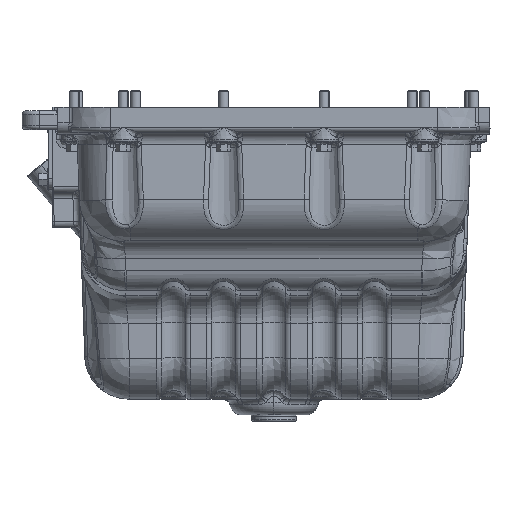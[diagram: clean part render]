
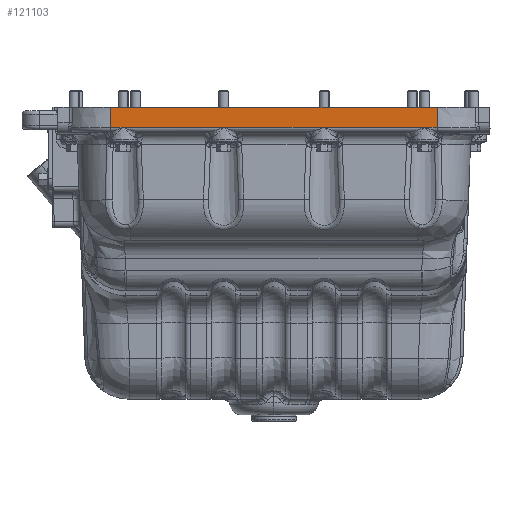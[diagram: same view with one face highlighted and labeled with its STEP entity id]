
A CAD part, left-side view. The second image highlights one B-rep face of the part: STEP entity #121103.
In plain terms, the highlighted planar face has unit normal (-0.999, 0, -0.035).
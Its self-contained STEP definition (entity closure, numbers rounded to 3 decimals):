
#121072=AXIS2_PLACEMENT_3D('Plane Axis2P3D',#121069,#121070,#121071) ;
#61382=CARTESIAN_POINT('Vertex',(-6.236,130.,-16.14)) ;
#61671=CARTESIAN_POINT('Vertex',(-6.236,-130.,-16.14)) ;
#67075=CARTESIAN_POINT('Line Origine',(-6.236,0.,-16.14)) ;
#67079=CARTESIAN_POINT('Vertex',(-6.236,-120.,-16.14)) ;
#67173=CARTESIAN_POINT('Line Origine',(-6.236,0.,-16.14)) ;
#67177=CARTESIAN_POINT('Vertex',(-6.236,-40.,-16.14)) ;
#67477=CARTESIAN_POINT('Line Origine',(-6.236,0.,-16.14)) ;
#67481=CARTESIAN_POINT('Vertex',(-6.236,40.,-16.14)) ;
#67809=CARTESIAN_POINT('Line Origine',(-6.236,0.,-16.14)) ;
#67813=CARTESIAN_POINT('Vertex',(-6.236,120.,-16.14)) ;
#68113=CARTESIAN_POINT('Line Origine',(-6.236,0.,-16.14)) ;
#121069=CARTESIAN_POINT('Axis2P3D Location',(-6.8,0.,0.)) ;
#121074=CARTESIAN_POINT('Line Origine',(-6.8,65.,0.)) ;
#121078=CARTESIAN_POINT('Vertex',(-6.8,-130.,0.)) ;
#121080=CARTESIAN_POINT('Vertex',(-6.8,130.,0.)) ;
#121083=CARTESIAN_POINT('Line Origine',(-6.461,130.,-9.7)) ;
#121088=CARTESIAN_POINT('Line Origine',(-6.461,-130.,-9.7)) ;
#67076=DIRECTION('Vector Direction',(0.,1.,0.)) ;
#67174=DIRECTION('Vector Direction',(0.,1.,0.)) ;
#67478=DIRECTION('Vector Direction',(0.,1.,0.)) ;
#67810=DIRECTION('Vector Direction',(0.,1.,0.)) ;
#68114=DIRECTION('Vector Direction',(0.,1.,0.)) ;
#121070=DIRECTION('Axis2P3D Direction',(0.999,-0.,0.035)) ;
#121071=DIRECTION('Axis2P3D XDirection',(0.,1.,0.)) ;
#121075=DIRECTION('Vector Direction',(0.,1.,0.)) ;
#121084=DIRECTION('Vector Direction',(-0.035,0.,0.999)) ;
#121089=DIRECTION('Vector Direction',(-0.035,0.,0.999)) ;
#67077=VECTOR('Line Direction',#67076,1.) ;
#67175=VECTOR('Line Direction',#67174,1.) ;
#67479=VECTOR('Line Direction',#67478,1.) ;
#67811=VECTOR('Line Direction',#67810,1.) ;
#68115=VECTOR('Line Direction',#68114,1.) ;
#121076=VECTOR('Line Direction',#121075,1.) ;
#121085=VECTOR('Line Direction',#121084,1.) ;
#121090=VECTOR('Line Direction',#121089,1.) ;
#121094=ORIENTED_EDGE('',*,*,#121082,.T.) ;
#121095=ORIENTED_EDGE('',*,*,#121087,.T.) ;
#121096=ORIENTED_EDGE('',*,*,#68117,.F.) ;
#121097=ORIENTED_EDGE('',*,*,#67815,.F.) ;
#121098=ORIENTED_EDGE('',*,*,#67483,.F.) ;
#121099=ORIENTED_EDGE('',*,*,#67179,.F.) ;
#121100=ORIENTED_EDGE('',*,*,#67081,.F.) ;
#121101=ORIENTED_EDGE('',*,*,#121092,.F.) ;
#121103=ADVANCED_FACE('#Final_Part',(#121102),#121073,.F.) ;
#67081=EDGE_CURVE('',#61672,#67080,#67078,.T.) ;
#67179=EDGE_CURVE('',#67080,#67178,#67176,.T.) ;
#67483=EDGE_CURVE('',#67178,#67482,#67480,.T.) ;
#67815=EDGE_CURVE('',#67482,#67814,#67812,.T.) ;
#68117=EDGE_CURVE('',#67814,#61383,#68116,.T.) ;
#121082=EDGE_CURVE('',#121079,#121081,#121077,.T.) ;
#121087=EDGE_CURVE('',#121081,#61383,#121086,.F.) ;
#121092=EDGE_CURVE('',#121079,#61672,#121091,.F.) ;
#121093=EDGE_LOOP('',(#121094,#121095,#121096,#121097,#121098,#121099,#121100,#121101)) ;
#121102=FACE_OUTER_BOUND('',#121093,.T.) ;
#67078=LINE('Line',#67075,#67077) ;
#67176=LINE('Line',#67173,#67175) ;
#67480=LINE('Line',#67477,#67479) ;
#67812=LINE('Line',#67809,#67811) ;
#68116=LINE('Line',#68113,#68115) ;
#121077=LINE('Line',#121074,#121076) ;
#121086=LINE('Line',#121083,#121085) ;
#121091=LINE('Line',#121088,#121090) ;
#121073=PLANE('',#121072) ;
#61383=VERTEX_POINT('',#61382) ;
#61672=VERTEX_POINT('',#61671) ;
#67080=VERTEX_POINT('',#67079) ;
#67178=VERTEX_POINT('',#67177) ;
#67482=VERTEX_POINT('',#67481) ;
#67814=VERTEX_POINT('',#67813) ;
#121079=VERTEX_POINT('',#121078) ;
#121081=VERTEX_POINT('',#121080) ;
